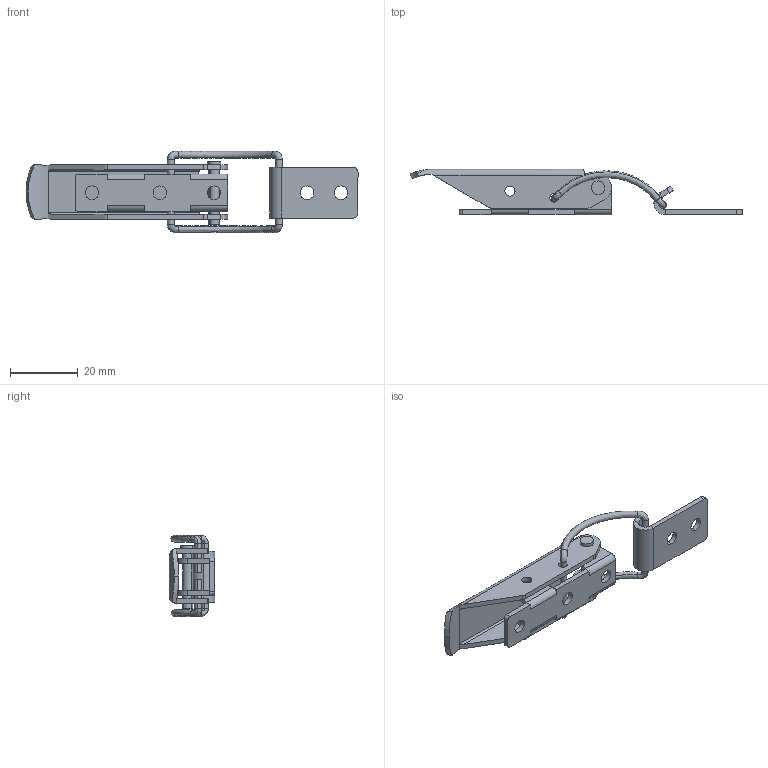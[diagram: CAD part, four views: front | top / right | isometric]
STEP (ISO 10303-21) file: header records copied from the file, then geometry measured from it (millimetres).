
FILE_DESCRIPTION (( 'STEP AP203' ), '1' );
FILE_NAME ('SK3-032.STEP', '2018-11-01T08:50:25', ( 'admin' ), ( 'Microsoft' ), 'SwSTEP 2.0', 'SolidWorks 2015', '' );
FILE_SCHEMA (( 'CONFIG_CONTROL_DESIGN' ));
Length unit declared in the file: millimetre
Products named in the file (6): SK3-032 种隊; SK3-032-F1; SK3-032; SK3-032菁釱; SK3-032 參忒; SK3-032蜇璃
Assembly tree (5 placements, depth 2):
  SK3-032
    SK3-032菁釱
    SK3-032 參忒
    SK3-032蜇璃
    SK3-032 种隊
    SK3-032-F1
Bounding box: 98 x 13.5 x 24 mm (x, y, z)
Volume: 4652.4 mm3; surface area: 7392.9 mm2
Topology: 5 solids, 5 shells, 171 faces, 427 edges, 266 vertices
Faces by surface type: cylinder 81, plane 72, bspline 16, torus 2
Entity records: 9855 total; most frequent: CARTESIAN_POINT 5156, ORIENTED_EDGE 850, DIRECTION 847, EDGE_CURVE 425, AXIS2_PLACEMENT_3D 317, VERTEX_POINT 266, VECTOR 213, LINE 213
